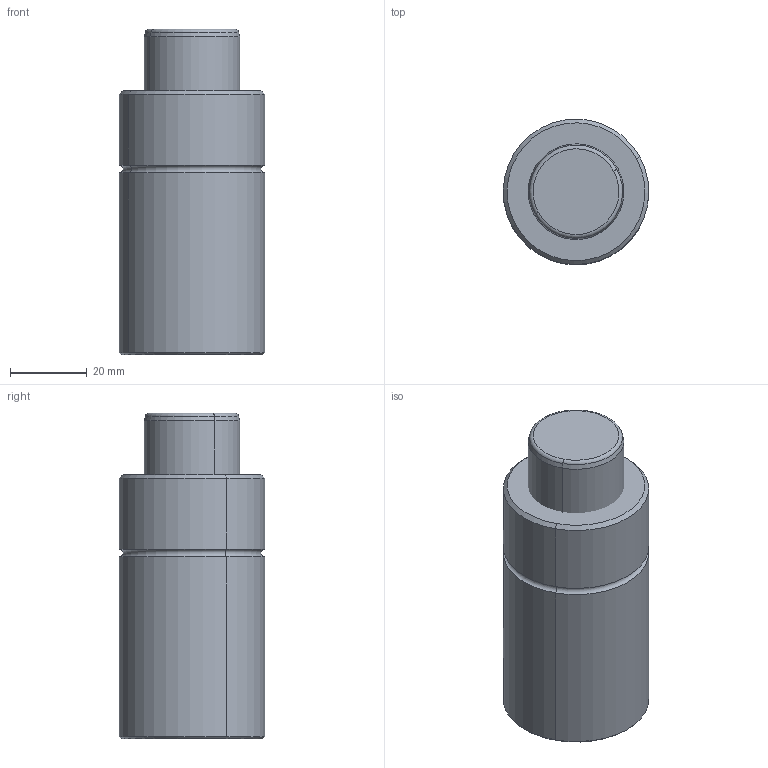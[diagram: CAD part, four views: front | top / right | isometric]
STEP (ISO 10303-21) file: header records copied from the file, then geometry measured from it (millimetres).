
FILE_DESCRIPTION(('CATIA V5 STEP Exchange'),'2;1');
FILE_NAME('W:\CATALOGO GENERAL 2018\FICHEROS CAD\003-TPH\TPH 1000\TPH1000x15.stp','2017-10-30T10:52:59+00:00',('none'),('none'),'CATIA Version 5 Release 17 (IN-10)','CATIA V5 STEP AP203','none');
FILE_SCHEMA(('CONFIG_CONTROL_DESIGN'));
Length unit declared in the file: millimetre
Products named in the file (1): TPH 1000x15
Assembly tree (2 placements, depth 2):
  TPH 1000x15
    #56
    #489
Bounding box: 37.99 x 37.99 x 85 mm (x, y, z)
Volume: 112265 mm3; surface area: 17994.1 mm2
Topology: 2 solids, 2 shells, 43 faces, 82 edges, 48 vertices
Faces by surface type: cylinder 16, torus 10, plane 9, cone 8
Entity records: 1016 total; most frequent: ORIENTED_EDGE 164, CARTESIAN_POINT 156, DIRECTION 134, AXIS2_PLACEMENT_3D 84, EDGE_CURVE 82, CIRCLE 58, EDGE_LOOP 48, VERTEX_POINT 48
